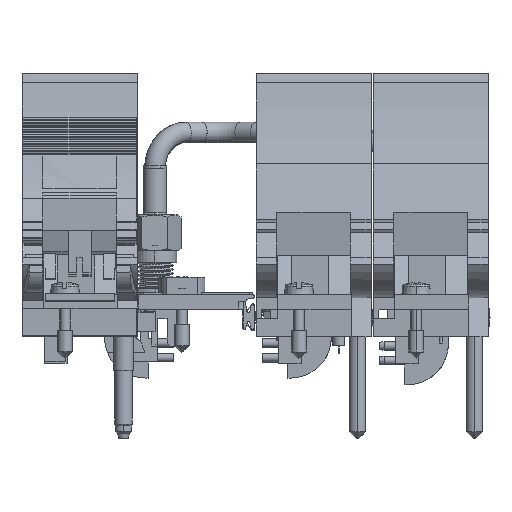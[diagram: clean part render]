
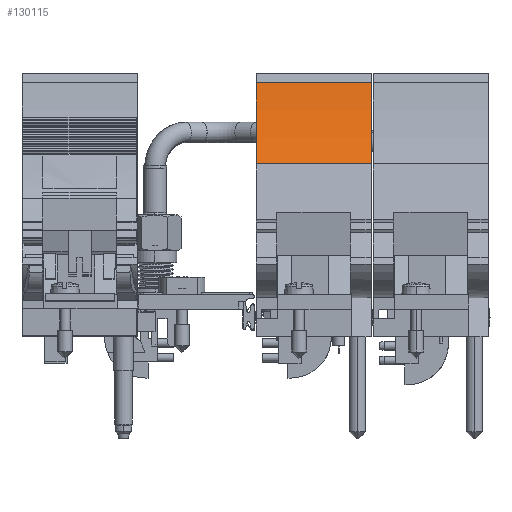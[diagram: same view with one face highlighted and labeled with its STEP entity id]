
A CAD part, front view. The second image highlights one B-rep face of the part: STEP entity #130115.
In plain terms, the highlighted cylindrical face has radius 51.46 mm (diameter 102.919 mm), a partial arc.
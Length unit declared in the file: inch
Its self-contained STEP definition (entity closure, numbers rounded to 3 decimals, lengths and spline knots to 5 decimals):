
#119212=CARTESIAN_POINT('',(4.694,-2.23193,2.11733));
#119213=DIRECTION('',(1.,0.,0.));
#119214=DIRECTION('',(0.,0.9,-0.435));
#119215=AXIS2_PLACEMENT_3D('',#119212,#119213,#119214);
#119557=CARTESIAN_POINT('',(3.906,-2.23193,2.11733));
#119558=DIRECTION('',(1.,0.,0.));
#119559=DIRECTION('',(0.,0.9,-0.435));
#119560=AXIS2_PLACEMENT_3D('',#119557,#119558,#119559);
#119775=DIRECTION('',(1.,0.,0.));
#119776=VECTOR('',#119775,0.788);
#119777=CARTESIAN_POINT('',(3.906,-0.23193,1.794));
#119778=LINE('',#119777,#119776);
#119783=DIRECTION('',(1.,0.,0.));
#119784=VECTOR('',#119783,0.788);
#119785=CARTESIAN_POINT('',(3.906,-0.40769,1.23603));
#119786=LINE('',#119785,#119784);
#123501=CARTESIAN_POINT('',(3.906,-0.40769,1.23603));
#123502=CARTESIAN_POINT('',(3.906,-0.23193,1.794));
#123503=VERTEX_POINT('',#123501);
#123504=VERTEX_POINT('',#123502);
#123505=CARTESIAN_POINT('',(4.694,-0.40769,1.23603));
#123506=CARTESIAN_POINT('',(4.694,-0.23193,1.794));
#123507=VERTEX_POINT('',#123505);
#123508=VERTEX_POINT('',#123506);
#130103=CARTESIAN_POINT('',(4.694,-2.23193,2.11733));
#130104=DIRECTION('',(1.,0.,0.));
#130105=DIRECTION('',(0.,1.,0.));
#130106=AXIS2_PLACEMENT_3D('',#130103,#130104,#130105);
#130107=CYLINDRICAL_SURFACE('',#130106,2.02597);
#130108=ORIENTED_EDGE('',*,*,#129821,.T.);
#130109=ORIENTED_EDGE('',*,*,#130095,.T.);
#130110=ORIENTED_EDGE('',*,*,#129370,.F.);
#130112=ORIENTED_EDGE('',*,*,#130111,.F.);
#130113=EDGE_LOOP('',(#130108,#130109,#130110,#130112));
#130114=FACE_OUTER_BOUND('',#130113,.F.);
#130115=ADVANCED_FACE('',(#130114),#130107,.F.);
#119216=CIRCLE('',#119215,2.02597);
#119561=CIRCLE('',#119560,2.02597);
#129370=EDGE_CURVE('',#123507,#123508,#119216,.T.);
#129821=EDGE_CURVE('',#123503,#123504,#119561,.T.);
#130095=EDGE_CURVE('',#123504,#123508,#119778,.T.);
#130111=EDGE_CURVE('',#123503,#123507,#119786,.T.);
